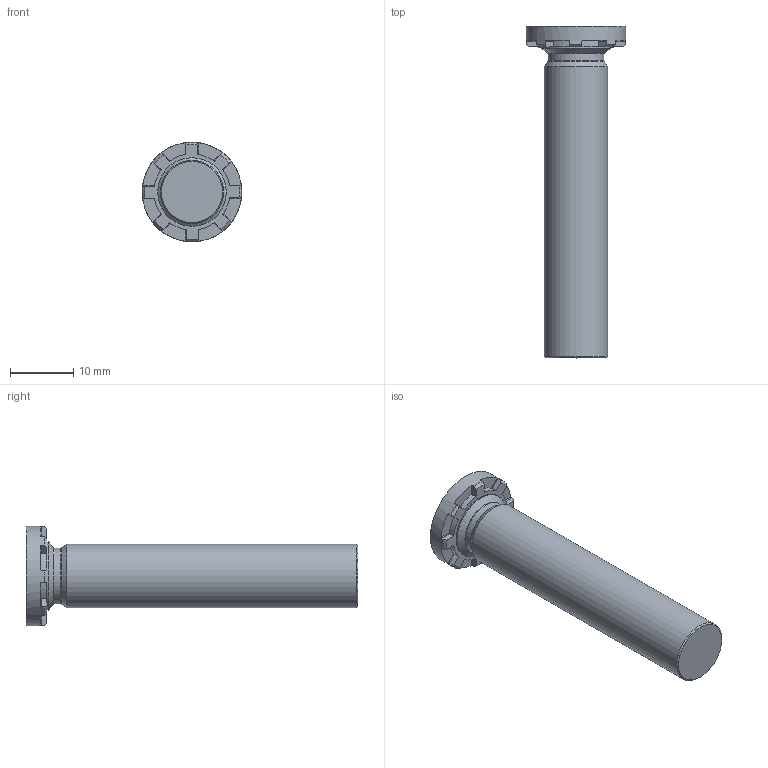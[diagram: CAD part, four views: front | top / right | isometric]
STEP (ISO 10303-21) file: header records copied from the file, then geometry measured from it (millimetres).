
FILE_DESCRIPTION(/* description */ (''),/* implementation_level */ '2;1');
FILE_NAME(/* name */ 'C:\Users\keval.kumar\Desktop\Fastit\Clinch Screw- HFH Range\M10\Clinch Screw-HFH Range_M10x50.stp',/* time_stamp */ '2024-03-12T15:12:18+06:00',/* author */ ('keval.kumar'),/* organization */ (''),/* preprocessor_version */ 'ST-DEVELOPER v18.1',/* originating_system */ 'Autodesk Inventor 2022',/* authorisation */ '');
FILE_SCHEMA (('AUTOMOTIVE_DESIGN { 1 0 10303 214 3 1 1 }'));
Length unit declared in the file: millimetre
Products named in the file (1): Clinch Screw-HFH Range_M10x50
Bounding box: 15.7 x 52.29 x 15.7 mm (x, y, z)
Volume: 4401.9 mm3; surface area: 2097.3 mm2
Topology: 1 solids, 1 shells, 68 faces, 193 edges, 128 vertices
Faces by surface type: plane 43, cylinder 12, cone 11, torus 2
Full cylindrical faces by diameter (mm): 8.8 x1, 10 x1, 10.8 x1, 15.7 x1
Entity records: 2278 total; most frequent: CARTESIAN_POINT 422, DIRECTION 405, ORIENTED_EDGE 386, EDGE_CURVE 193, AXIS2_PLACEMENT_3D 159, VERTEX_POINT 128, LINE 87, VECTOR 87
